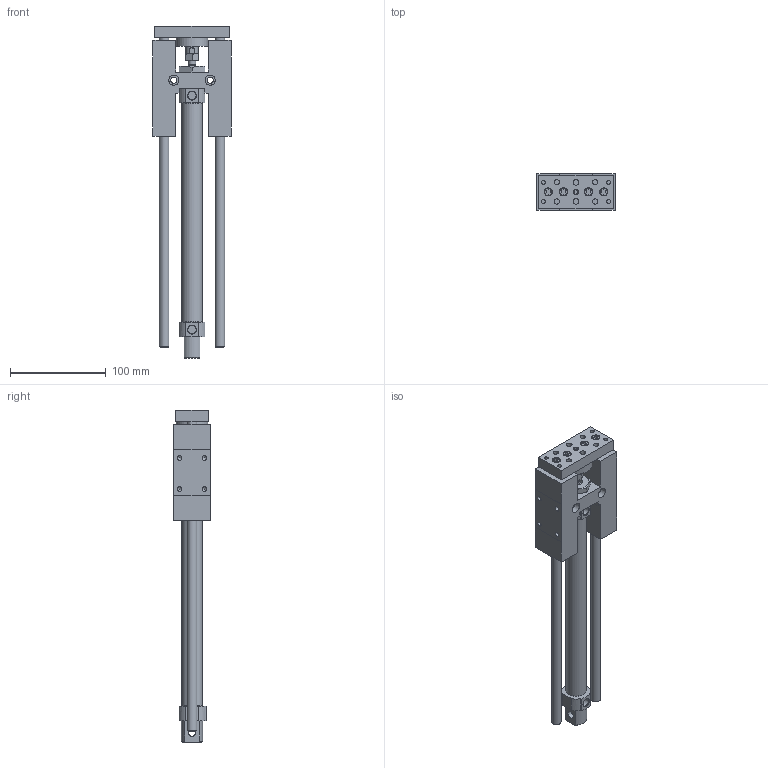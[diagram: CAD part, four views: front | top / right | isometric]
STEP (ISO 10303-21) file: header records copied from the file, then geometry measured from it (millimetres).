
FILE_DESCRIPTION((''),'2;1');
FILE_NAME('I:\3D電子目錄\氣缸\GHB(U)\GHB(U)\GHB(U)20\GHB(U)20x200.stp','2007-10-22T16:14:52',('Administrator'),(''),'Autodesk Inventor 11','Autodesk Inventor 11','');
FILE_SCHEMA(('AUTOMOTIVE_DESIGN { 1 0 10303 214 1 1 1 1 }'));
Length unit declared in the file: millimetre
Products named in the file (1): GHB(U)20
Bounding box: 82 x 38 x 346 mm (x, y, z)
Volume: 382045.4 mm3; surface area: 81964.7 mm2
Topology: 1 solids, 1 shells, 241 faces, 563 edges, 363 vertices
Faces by surface type: plane 132, bspline 40, cylinder 38, cone 31
Full cylindrical faces by diameter (mm): 4.917 x4, 5 x1, 6 x3, 6.6 x1, 7.5 x4, 8 x3, 8.5 x6, 10 x2, 13 x2, 21.2 x1, 33 x1
Entity records: 6788 total; most frequent: CARTESIAN_POINT 1686, DIRECTION 1006, ORIENTED_EDGE 964, EDGE_CURVE 482, EDGE_LOOP 372, AXIS2_PLACEMENT_3D 366, VERTEX_POINT 348, VECTOR 274
